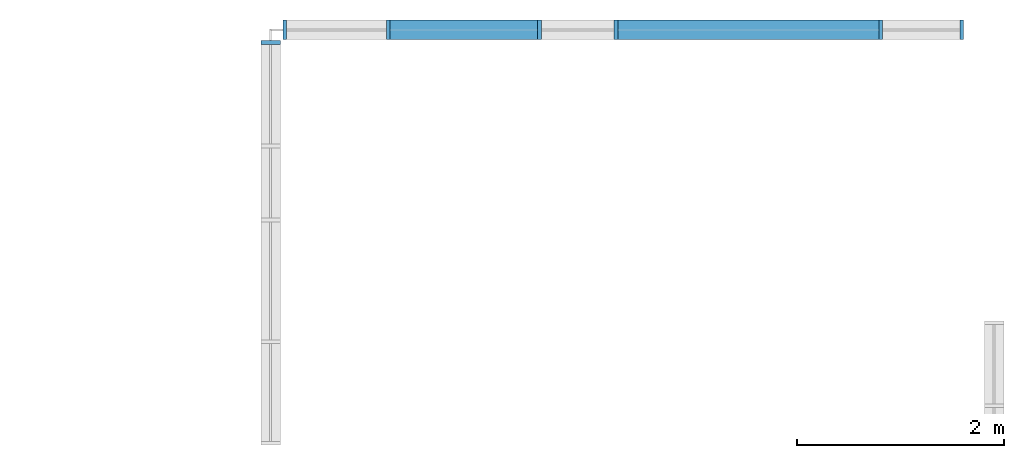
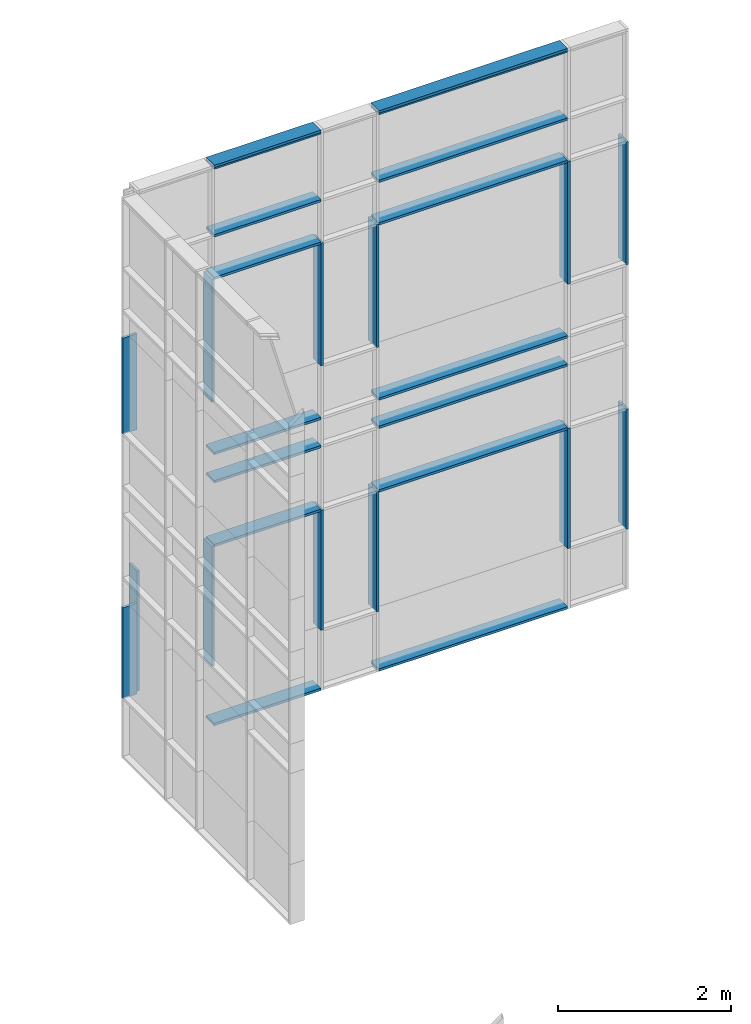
# One storey, part 7 of 73: 29 members, 2 elements without a shape of their own.
"""IFC2X3 building model written with IfcOpenShell, lengths in millimetres."""

from ifc_helpers import new_model, entity, si_unit, converted_unit, derived_unit, direction, frame, origin, origin_2d_with_axis, place, context, subcontext, project, spatial, rectangle, extrude, source, transform, mapped, material, type_object, type_shapes, element, aggregate, save


model = new_model("IFC2X3")

# Units and contexts
model_context = context("Model", 3, precision=0.01, world=origin(), true_north=direction((6.12303176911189e-17, 1.0)))
body_context = subcontext(model_context, "Body", "Model", "MODEL_VIEW")
ifc_project = project(units=[si_unit("LENGTHUNIT", "METRE", prefix="MILLI"), si_unit("AREAUNIT", "SQUARE_METRE"), si_unit("VOLUMEUNIT", "CUBIC_METRE"), converted_unit("PLANEANGLEUNIT", "DEGREE", entity("IfcRatioMeasure", 0.0174532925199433), si_unit("PLANEANGLEUNIT", "RADIAN"), dimensions=[0, 0, 0, 0, 0, 0, 0]), si_unit("MASSUNIT", "GRAM", prefix="KILO"), derived_unit("MASSDENSITYUNIT", [(si_unit("MASSUNIT", "GRAM", prefix="KILO"), 1), (si_unit("LENGTHUNIT", "METRE"), -3)]), si_unit("TIMEUNIT", "SECOND"), si_unit("FREQUENCYUNIT", "HERTZ"), si_unit("THERMODYNAMICTEMPERATUREUNIT", "DEGREE_CELSIUS"), derived_unit("THERMALTRANSMITTANCEUNIT", [(si_unit("MASSUNIT", "GRAM", prefix="KILO"), 1), (si_unit("THERMODYNAMICTEMPERATUREUNIT", "KELVIN"), -1), (si_unit("TIMEUNIT", "SECOND"), -3)]), derived_unit("VOLUMETRICFLOWRATEUNIT", [(si_unit("LENGTHUNIT", "METRE"), 3), (si_unit("TIMEUNIT", "SECOND"), -1)]), si_unit("ELECTRICCURRENTUNIT", "AMPERE"), si_unit("ELECTRICVOLTAGEUNIT", "VOLT"), si_unit("POWERUNIT", "WATT"), si_unit("FORCEUNIT", "NEWTON", prefix="KILO"), si_unit("ILLUMINANCEUNIT", "LUX"), si_unit("LUMINOUSFLUXUNIT", "LUMEN"), si_unit("LUMINOUSINTENSITYUNIT", "CANDELA"), derived_unit("USERDEFINED", [(si_unit("MASSUNIT", "GRAM", prefix="KILO"), -1), (si_unit("LENGTHUNIT", "METRE"), -2), (si_unit("TIMEUNIT", "SECOND"), 3), (si_unit("LUMINOUSFLUXUNIT", "LUMEN"), 1)]), derived_unit("LINEARVELOCITYUNIT", [(si_unit("LENGTHUNIT", "METRE"), 1), (si_unit("TIMEUNIT", "SECOND"), -1)]), si_unit("PRESSUREUNIT", "PASCAL"), derived_unit("USERDEFINED", [(si_unit("LENGTHUNIT", "METRE"), -2), (si_unit("MASSUNIT", "GRAM", prefix="KILO"), 1), (si_unit("TIMEUNIT", "SECOND"), -2)])], contexts=[model_context])

# Site, building, storey
site_placement = place(None, frame((-151.875543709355, 2715.0, 0.0)))
site = spatial("IfcSite", under=ifc_project, at=site_placement, Name="Surface", CompositionType="ELEMENT")
building_placement = place(site_placement, origin())
building = spatial("IfcBuilding", under=site, at=building_placement, CompositionType="ELEMENT")
storey_placement = place(building_placement, frame((0.0, 0.0, 6730.43000000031)))
storey = spatial("IfcBuildingStorey", under=building, at=storey_placement, Name="3 korrus", CompositionType="ELEMENT", Elevation=6730.43000000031)

# Curtain wall, members
curtain_wall_type = type_object("IfcCurtainWallType", Name="Curtain Wall:Klaasfassaad2", PredefinedType="NOTDEFINED")
curtain_wall_1_placement = place(storey_placement, frame((0.0, 0.0, -6730.43000000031)))
curtain_wall_1 = element("IfcCurtainWall", 1, at=curtain_wall_1_placement, inside=storey, type_object=curtain_wall_type, Name="Curtain Wall:Klaasfassaad2", ObjectType="Curtain Wall:Klaasfassaad2")
ifc_material = material(Name="Steel/Aluminium")
member_type_1 = type_object("IfcMemberType", Name="35 x 190mm", PredefinedType="MEMBER")
shared_shape_1 = source(origin(), body_context, "Body", "SweptSolid", [
    extrude(rectangle(XDim=190.0, YDim=35.0, at=origin_2d_with_axis()), frame((-17.5, 0.0, -1740.0), z_axis=(0.0, 0.0, 1.0), x_axis=(0.0, -1.0, 0.0)), (0.0, 0.0, 1.0), 1740.0),
])
type_shapes(member_type_1, [shared_shape_1])
member_1_placement = place(storey_placement, frame((38406.6162682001, 26624.0, 3474.47692901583)))
member_1 = element("IfcMember", 2, at=member_1_placement, type_object=member_type_1, material=ifc_material, Name="Rectangular Mullion:35 x 190mm", ObjectType="35 x 190mm", context=body_context, shape_type="MappedRepresentation", body=[
    mapped(shared_shape_1, transform((0.0, 0.0, 0.0), scale=1.0)),
])
member_type_2 = type_object("IfcMemberType", Name="35 x 190mm", PredefinedType="MEMBER")
shared_shape_2 = source(origin(), body_context, "Body", "SweptSolid", [
    extrude(rectangle(XDim=190.0, YDim=35.0, at=origin_2d_with_axis()), frame((-17.5, 0.0, -1700.31945955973), z_axis=(0.0, 0.0, 1.0), x_axis=(0.0, -1.0, 0.0)), (0.0, 0.0, 1.0), 1700.31945955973),
])
type_shapes(member_type_2, [shared_shape_2])
member_2_placement = place(storey_placement, frame((38406.6162682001, 26624.0, -305.523070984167)))
member_2 = element("IfcMember", 3, at=member_2_placement, type_object=member_type_2, material=ifc_material, Name="Rectangular Mullion:35 x 190mm", ObjectType="35 x 190mm", context=body_context, shape_type="MappedRepresentation", body=[
    mapped(shared_shape_2, transform((0.0, 0.0, 0.0), scale=1.0)),
])
member_type_3 = type_object("IfcMemberType", Name="35 x 190mm", PredefinedType="MEMBER")
shared_shape_3 = source(origin(), body_context, "Body", "SweptSolid", [
    extrude(rectangle(XDim=190.0, YDim=35.0, at=origin_2d_with_axis()), frame((-17.5, 0.0, -2525.0), z_axis=(0.0, 0.0, 1.0), x_axis=(0.0, -1.0, 0.0)), (0.0, 0.0, 1.0), 2525.00000000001),
])
type_shapes(member_type_3, [shared_shape_3])
member_3_placement = place(storey_placement, frame((37589.1162682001, 26624.0, -2856.00226032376), z_axis=(1.0, 0.0, 0.0), x_axis=(0.0, 0.0, -1.0)))
member_3 = element("IfcMember", 4, at=member_3_placement, type_object=member_type_3, material=ifc_material, Name="Rectangular Mullion:35 x 190mm", ObjectType="35 x 190mm", context=body_context, shape_type="MappedRepresentation", body=[
    mapped(shared_shape_3, transform((0.0, 0.0, 0.0), scale=1.0)),
])
member_type_4 = type_object("IfcMemberType", Name="35 x 190mm", PredefinedType="MEMBER")
shared_shape_4 = source(origin(), body_context, "Body", "SweptSolid", [
    extrude(rectangle(XDim=190.0, YDim=35.0, at=origin_2d_with_axis()), frame((0.0, 0.0, -2525.0), z_axis=(0.0, 0.0, 1.0), x_axis=(0.0, -1.0, 0.0)), (0.0, 0.0, 1.0), 2525.00000000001),
])
type_shapes(member_type_4, [shared_shape_4])
member_4_placement = place(storey_placement, frame((35064.1162682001, 26624.0, 4074.47692901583), z_axis=(-1.0, 0.0, 0.0), x_axis=(0.0, 0.0, 1.0)))
member_4 = element("IfcMember", 5, at=member_4_placement, type_object=member_type_4, material=ifc_material, Name="Rectangular Mullion:35 x 190mm", ObjectType="35 x 190mm", context=body_context, shape_type="MappedRepresentation", body=[
    mapped(shared_shape_4, transform((0.0, 0.0, 0.0), scale=1.0)),
])
member_type_5 = type_object("IfcMemberType", Name="35 x 190mm", PredefinedType="MEMBER")
shared_shape_5 = source(origin(), body_context, "Body", "SweptSolid", [
    extrude(rectangle(XDim=190.0, YDim=35.0, at=origin_2d_with_axis()), frame((0.0, 0.0, -2525.0), z_axis=(0.0, 0.0, 1.0), x_axis=(0.0, -1.0, 0.0)), (0.0, 0.0, 1.0), 2525.00000000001),
])
type_shapes(member_type_5, [shared_shape_5])
member_5_placement = place(storey_placement, frame((35064.1162682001, 26624.0, 3474.47692901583), z_axis=(-1.0, 0.0, 0.0), x_axis=(0.0, 0.0, 1.0)))
member_5 = element("IfcMember", 6, at=member_5_placement, type_object=member_type_5, material=ifc_material, Name="Rectangular Mullion:35 x 190mm", ObjectType="35 x 190mm", context=body_context, shape_type="MappedRepresentation", body=[
    mapped(shared_shape_5, transform((0.0, 0.0, 0.0), scale=1.0)),
])
member_type_6 = type_object("IfcMemberType", Name="35 x 190mm", PredefinedType="MEMBER")
shared_shape_6 = source(origin(), body_context, "Body", "SweptSolid", [
    extrude(rectangle(XDim=190.0, YDim=35.0, at=origin_2d_with_axis()), frame((0.0, 0.0, -2525.0), z_axis=(0.0, 0.0, 1.0), x_axis=(0.0, -1.0, 0.0)), (0.0, 0.0, 1.0), 2525.00000000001),
])
type_shapes(member_type_6, [shared_shape_6])
member_6_placement = place(storey_placement, frame((35064.1162682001, 26624.0, 994.476929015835), z_axis=(-1.0, 0.0, 0.0), x_axis=(0.0, 0.0, 1.0)))
member_6 = element("IfcMember", 7, at=member_6_placement, type_object=member_type_6, material=ifc_material, Name="Rectangular Mullion:35 x 190mm", ObjectType="35 x 190mm", context=body_context, shape_type="MappedRepresentation", body=[
    mapped(shared_shape_6, transform((0.0, 0.0, 0.0), scale=1.0)),
])
member_type_7 = type_object("IfcMemberType", Name="35 x 190mm", PredefinedType="MEMBER")
shared_shape_7 = source(origin(), body_context, "Body", "SweptSolid", [
    extrude(rectangle(XDim=190.0, YDim=35.0, at=origin_2d_with_axis()), frame((0.0, 0.0, -2525.0), z_axis=(0.0, 0.0, 1.0), x_axis=(0.0, -1.0, 0.0)), (0.0, 0.0, 1.0), 2525.00000000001),
])
type_shapes(member_type_7, [shared_shape_7])
member_7_placement = place(storey_placement, frame((35064.1162682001, 26624.0, 594.476929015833), z_axis=(-1.0, 0.0, 0.0), x_axis=(0.0, 0.0, 1.0)))
member_7 = element("IfcMember", 8, at=member_7_placement, type_object=member_type_7, material=ifc_material, Name="Rectangular Mullion:35 x 190mm", ObjectType="35 x 190mm", context=body_context, shape_type="MappedRepresentation", body=[
    mapped(shared_shape_7, transform((0.0, 0.0, 0.0), scale=1.0)),
])
member_type_8 = type_object("IfcMemberType", Name="35 x 190mm", PredefinedType="MEMBER")
shared_shape_8 = source(origin(), body_context, "Body", "SweptSolid", [
    extrude(rectangle(XDim=190.0, YDim=35.0, at=origin_2d_with_axis()), frame((0.0, 0.0, -2525.0), z_axis=(0.0, 0.0, 1.0), x_axis=(0.0, -1.0, 0.0)), (0.0, 0.0, 1.0), 2525.00000000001),
])
type_shapes(member_type_8, [shared_shape_8])
member_8_placement = place(storey_placement, frame((35064.1162682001, 26624.0, -305.523070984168), z_axis=(-1.0, 0.0, 0.0), x_axis=(0.0, 0.0, 1.0)))
member_8 = element("IfcMember", 9, at=member_8_placement, type_object=member_type_8, material=ifc_material, Name="Rectangular Mullion:35 x 190mm", ObjectType="35 x 190mm", context=body_context, shape_type="MappedRepresentation", body=[
    mapped(shared_shape_8, transform((0.0, 0.0, 0.0), scale=1.0)),
])
member_type_9 = type_object("IfcMemberType", Name="35 x 190mm", PredefinedType="MEMBER")
shared_shape_9 = source(origin(), body_context, "Body", "SweptSolid", [
    extrude(rectangle(XDim=190.0, YDim=35.0, at=origin_2d_with_axis()), frame((-17.5, 0.0, -1427.0), z_axis=(0.0, 0.0, 1.0), x_axis=(0.0, -1.0, 0.0)), (0.0, 0.0, 1.0), 1427.0),
])
type_shapes(member_type_9, [shared_shape_9])
member_9_placement = place(storey_placement, frame((34289.1162682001, 26624.0, -2856.00226032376), z_axis=(1.0, 0.0, 0.0), x_axis=(0.0, 0.0, -1.0)))
member_9 = element("IfcMember", 10, at=member_9_placement, type_object=member_type_9, material=ifc_material, Name="Rectangular Mullion:35 x 190mm", ObjectType="35 x 190mm", context=body_context, shape_type="MappedRepresentation", body=[
    mapped(shared_shape_9, transform((0.0, 0.0, 0.0), scale=1.0)),
])
member_type_10 = type_object("IfcMemberType", Name="35 x 190mm", PredefinedType="MEMBER")
shared_shape_10 = source(origin(), body_context, "Body", "SweptSolid", [
    extrude(rectangle(XDim=190.0, YDim=35.0, at=origin_2d_with_axis()), frame((0.0, 0.0, -1427.0), z_axis=(0.0, 0.0, 1.0), x_axis=(0.0, -1.0, 0.0)), (0.0, 0.0, 1.0), 1427.0),
])
type_shapes(member_type_10, [shared_shape_10])
member_10_placement = place(storey_placement, frame((32862.1162682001, 26624.0, 4074.47692901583), z_axis=(-1.0, 0.0, 0.0), x_axis=(0.0, 0.0, 1.0)))
member_10 = element("IfcMember", 11, at=member_10_placement, type_object=member_type_10, material=ifc_material, Name="Rectangular Mullion:35 x 190mm", ObjectType="35 x 190mm", context=body_context, shape_type="MappedRepresentation", body=[
    mapped(shared_shape_10, transform((0.0, 0.0, 0.0), scale=1.0)),
])
member_type_11 = type_object("IfcMemberType", Name="35 x 190mm", PredefinedType="MEMBER")
shared_shape_11 = source(origin(), body_context, "Body", "SweptSolid", [
    extrude(rectangle(XDim=190.0, YDim=35.0, at=origin_2d_with_axis()), frame((0.0, 0.0, -1427.0), z_axis=(0.0, 0.0, 1.0), x_axis=(0.0, -1.0, 0.0)), (0.0, 0.0, 1.0), 1427.0),
])
type_shapes(member_type_11, [shared_shape_11])
member_11_placement = place(storey_placement, frame((32862.1162682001, 26624.0, 3474.47692901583), z_axis=(-1.0, 0.0, 0.0), x_axis=(0.0, 0.0, 1.0)))
member_11 = element("IfcMember", 12, at=member_11_placement, type_object=member_type_11, material=ifc_material, Name="Rectangular Mullion:35 x 190mm", ObjectType="35 x 190mm", context=body_context, shape_type="MappedRepresentation", body=[
    mapped(shared_shape_11, transform((0.0, 0.0, 0.0), scale=1.0)),
])
member_type_12 = type_object("IfcMemberType", Name="35 x 190mm", PredefinedType="MEMBER")
shared_shape_12 = source(origin(), body_context, "Body", "SweptSolid", [
    extrude(rectangle(XDim=190.0, YDim=35.0, at=origin_2d_with_axis()), frame((0.0, 0.0, -1427.0), z_axis=(0.0, 0.0, 1.0), x_axis=(0.0, -1.0, 0.0)), (0.0, 0.0, 1.0), 1427.0),
])
type_shapes(member_type_12, [shared_shape_12])
member_12_placement = place(storey_placement, frame((32862.1162682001, 26624.0, 994.476929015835), z_axis=(-1.0, 0.0, 0.0), x_axis=(0.0, 0.0, 1.0)))
member_12 = element("IfcMember", 13, at=member_12_placement, type_object=member_type_12, material=ifc_material, Name="Rectangular Mullion:35 x 190mm", ObjectType="35 x 190mm", context=body_context, shape_type="MappedRepresentation", body=[
    mapped(shared_shape_12, transform((0.0, 0.0, 0.0), scale=1.0)),
])
member_type_13 = type_object("IfcMemberType", Name="35 x 190mm", PredefinedType="MEMBER")
shared_shape_13 = source(origin(), body_context, "Body", "SweptSolid", [
    extrude(rectangle(XDim=190.0, YDim=35.0, at=origin_2d_with_axis()), frame((0.0, 0.0, -1427.0), z_axis=(0.0, 0.0, 1.0), x_axis=(0.0, -1.0, 0.0)), (0.0, 0.0, 1.0), 1427.0),
])
type_shapes(member_type_13, [shared_shape_13])
member_13_placement = place(storey_placement, frame((32862.1162682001, 26624.0, 594.476929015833), z_axis=(-1.0, 0.0, 0.0), x_axis=(0.0, 0.0, 1.0)))
member_13 = element("IfcMember", 14, at=member_13_placement, type_object=member_type_13, material=ifc_material, Name="Rectangular Mullion:35 x 190mm", ObjectType="35 x 190mm", context=body_context, shape_type="MappedRepresentation", body=[
    mapped(shared_shape_13, transform((0.0, 0.0, 0.0), scale=1.0)),
])
member_type_14 = type_object("IfcMemberType", Name="35 x 190mm", PredefinedType="MEMBER")
shared_shape_14 = source(origin(), body_context, "Body", "SweptSolid", [
    extrude(rectangle(XDim=190.0, YDim=35.0, at=origin_2d_with_axis()), frame((0.0, 0.0, -1427.0), z_axis=(0.0, 0.0, 1.0), x_axis=(0.0, -1.0, 0.0)), (0.0, 0.0, 1.0), 1427.0),
])
type_shapes(member_type_14, [shared_shape_14])
member_14_placement = place(storey_placement, frame((32862.1162682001, 26624.0, -305.523070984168), z_axis=(-1.0, 0.0, 0.0), x_axis=(0.0, 0.0, 1.0)))
member_14 = element("IfcMember", 15, at=member_14_placement, type_object=member_type_14, material=ifc_material, Name="Rectangular Mullion:35 x 190mm", ObjectType="35 x 190mm", context=body_context, shape_type="MappedRepresentation", body=[
    mapped(shared_shape_14, transform((0.0, 0.0, 0.0), scale=1.0)),
])
member_type_15 = type_object("IfcMemberType", Name="35 x 190mm", PredefinedType="MEMBER")
shared_shape_15 = source(origin(), body_context, "Body", "SweptSolid", [
    extrude(rectangle(XDim=190.0, YDim=35.0, at=origin_2d_with_axis()), frame((0.0, 0.0, -2525.0), z_axis=(0.0, 0.0, 1.0), x_axis=(0.0, -1.0, 0.0)), (0.0, 0.0, 1.0), 2525.00000000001),
])
type_shapes(member_type_15, [shared_shape_15])
member_15_placement = place(storey_placement, frame((35064.1162682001, 26624.0, 5034.47692901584), z_axis=(-1.0, 0.0, 0.0), x_axis=(0.0, 0.0, 1.0)))
member_15 = element("IfcMember", 16, at=member_15_placement, type_object=member_type_15, material=ifc_material, Name="Rectangular Mullion:35 x 190mm", ObjectType="35 x 190mm", context=body_context, shape_type="MappedRepresentation", body=[
    mapped(shared_shape_15, transform((0.0, 0.0, 0.0), scale=1.0)),
])
member_type_16 = type_object("IfcMemberType", Name="35 x 190mm", PredefinedType="MEMBER")
shared_shape_16 = source(origin(), body_context, "Body", "SweptSolid", [
    extrude(rectangle(XDim=190.0, YDim=35.0, at=origin_2d_with_axis()), frame((0.0, 0.0, -1427.0), z_axis=(0.0, 0.0, 1.0), x_axis=(0.0, -1.0, 0.0)), (0.0, 0.0, 1.0), 1427.0),
])
type_shapes(member_type_16, [shared_shape_16])
member_16_placement = place(storey_placement, frame((32862.1162682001, 26624.0, 5034.47692901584), z_axis=(-1.0, 0.0, 0.0), x_axis=(0.0, 0.0, 1.0)))
member_16 = element("IfcMember", 17, at=member_16_placement, type_object=member_type_16, material=ifc_material, Name="Rectangular Mullion:35 x 190mm", ObjectType="35 x 190mm", context=body_context, shape_type="MappedRepresentation", body=[
    mapped(shared_shape_16, transform((0.0, 0.0, 0.0), scale=1.0)),
])
member_type_17 = type_object("IfcMemberType", Name="35 x 190mm", PredefinedType="MEMBER")
shared_shape_17 = source(origin(), body_context, "Body", "SweptSolid", [
    extrude(rectangle(XDim=190.0, YDim=35.0, at=origin_2d_with_axis()), frame((-17.5, 0.0, -2525.0), z_axis=(0.0, 0.0, 1.0), x_axis=(0.0, -1.0, 0.0)), (0.0, 0.0, 1.0), 2525.00000000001),
])
type_shapes(member_type_17, [shared_shape_17])
member_17_placement = place(storey_placement, frame((35064.1162682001, 26624.0, 5074.47692901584), z_axis=(-1.0, 0.0, 0.0), x_axis=(0.0, 0.0, 1.0)))
member_17 = element("IfcMember", 18, at=member_17_placement, type_object=member_type_17, material=ifc_material, Name="Rectangular Mullion:35 x 190mm", ObjectType="35 x 190mm", context=body_context, shape_type="MappedRepresentation", body=[
    mapped(shared_shape_17, transform((0.0, 0.0, 0.0), scale=1.0)),
])
member_type_18 = type_object("IfcMemberType", Name="35 x 190mm", PredefinedType="MEMBER")
shared_shape_18 = source(origin(), body_context, "Body", "SweptSolid", [
    extrude(rectangle(XDim=190.0, YDim=35.0, at=origin_2d_with_axis()), frame((-17.5, 0.0, -1427.0), z_axis=(0.0, 0.0, 1.0), x_axis=(0.0, -1.0, 0.0)), (0.0, 0.0, 1.0), 1427.0),
])
type_shapes(member_type_18, [shared_shape_18])
member_18_placement = place(storey_placement, frame((32862.1162682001, 26624.0, 5074.47692901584), z_axis=(-1.0, 0.0, 0.0), x_axis=(0.0, 0.0, 1.0)))
member_18 = element("IfcMember", 19, at=member_18_placement, type_object=member_type_18, material=ifc_material, Name="Rectangular Mullion:35 x 190mm", ObjectType="35 x 190mm", context=body_context, shape_type="MappedRepresentation", body=[
    mapped(shared_shape_18, transform((0.0, 0.0, 0.0), scale=1.0)),
])
member_type_19 = type_object("IfcMemberType", Name="35 x 190mm", PredefinedType="MEMBER")
shared_shape_19 = source(origin(), body_context, "Body", "SweptSolid", [
    extrude(rectangle(XDim=190.0, YDim=35.0, at=origin_2d_with_axis()), frame((0.0, 0.0, -1740.0), z_axis=(0.0, 0.0, 1.0), x_axis=(0.0, -1.0, 0.0)), (0.0, 0.0, 1.0), 1740.0),
])
type_shapes(member_type_19, [shared_shape_19])
member_19_placement = place(storey_placement, frame((37606.6162682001, 26624.0, 1734.47692901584), z_axis=(0.0, 0.0, -1.0), x_axis=(-1.0, 0.0, 0.0)))
member_19 = element("IfcMember", 20, at=member_19_placement, type_object=member_type_19, material=ifc_material, Name="Rectangular Mullion:35 x 190mm", ObjectType="35 x 190mm", context=body_context, shape_type="MappedRepresentation", body=[
    mapped(shared_shape_19, transform((0.0, 0.0, 0.0), scale=1.0)),
])
member_20_placement = place(storey_placement, frame((35046.6162682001, 26624.0, 1734.47692901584), z_axis=(0.0, 0.0, -1.0), x_axis=(-1.0, 0.0, 0.0)))
member_20 = element("IfcMember", 21, at=member_20_placement, type_object=member_type_19, material=ifc_material, Name="Rectangular Mullion:35 x 190mm", ObjectType="35 x 190mm", context=body_context, shape_type="MappedRepresentation", body=[
    mapped(shared_shape_19, transform((0.0, 0.0, 0.0), scale=1.0)),
])
member_21_placement = place(storey_placement, frame((34306.6162682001, 26624.0, 1734.47692901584), z_axis=(0.0, 0.0, -1.0), x_axis=(-1.0, 0.0, 0.0)))
member_21 = element("IfcMember", 22, at=member_21_placement, type_object=member_type_19, material=ifc_material, Name="Rectangular Mullion:35 x 190mm", ObjectType="35 x 190mm", context=body_context, shape_type="MappedRepresentation", body=[
    mapped(shared_shape_19, transform((0.0, 0.0, 0.0), scale=1.0)),
])
member_22_placement = place(storey_placement, frame((32844.6162682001, 26624.0, 1734.47692901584), z_axis=(0.0, 0.0, -1.0), x_axis=(-1.0, 0.0, 0.0)))
member_22 = element("IfcMember", 23, at=member_22_placement, type_object=member_type_19, material=ifc_material, Name="Rectangular Mullion:35 x 190mm", ObjectType="35 x 190mm", context=body_context, shape_type="MappedRepresentation", body=[
    mapped(shared_shape_19, transform((0.0, 0.0, 0.0), scale=1.0)),
])
member_type_20 = type_object("IfcMemberType", Name="35 x 190mm", PredefinedType="MEMBER")
shared_shape_20 = source(origin(), body_context, "Body", "SweptSolid", [
    extrude(rectangle(XDim=190.0, YDim=35.0, at=origin_2d_with_axis()), frame((0.0, 0.0, -1700.31945955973), z_axis=(0.0, 0.0, 1.0), x_axis=(0.0, -1.0, 0.0)), (0.0, 0.0, 1.0), 1700.31945955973),
])
type_shapes(member_type_20, [shared_shape_20])
member_23_placement = place(storey_placement, frame((37606.6162682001, 26624.0, -2005.8425305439), z_axis=(0.0, 0.0, -1.0), x_axis=(-1.0, 0.0, 0.0)))
member_23 = element("IfcMember", 24, at=member_23_placement, type_object=member_type_20, material=ifc_material, Name="Rectangular Mullion:35 x 190mm", ObjectType="35 x 190mm", context=body_context, shape_type="MappedRepresentation", body=[
    mapped(shared_shape_20, transform((0.0, 0.0, 0.0), scale=1.0)),
])
member_24_placement = place(storey_placement, frame((35046.6162682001, 26624.0, -2005.8425305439), z_axis=(0.0, 0.0, -1.0), x_axis=(-1.0, 0.0, 0.0)))
member_24 = element("IfcMember", 25, at=member_24_placement, type_object=member_type_20, material=ifc_material, Name="Rectangular Mullion:35 x 190mm", ObjectType="35 x 190mm", context=body_context, shape_type="MappedRepresentation", body=[
    mapped(shared_shape_20, transform((0.0, 0.0, 0.0), scale=1.0)),
])
member_25_placement = place(storey_placement, frame((34306.6162682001, 26624.0, -2005.8425305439), z_axis=(0.0, 0.0, -1.0), x_axis=(-1.0, 0.0, 0.0)))
member_25 = element("IfcMember", 26, at=member_25_placement, type_object=member_type_20, material=ifc_material, Name="Rectangular Mullion:35 x 190mm", ObjectType="35 x 190mm", context=body_context, shape_type="MappedRepresentation", body=[
    mapped(shared_shape_20, transform((0.0, 0.0, 0.0), scale=1.0)),
])
member_26_placement = place(storey_placement, frame((31844.6162682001, 26624.0, -2005.8425305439), z_axis=(0.0, 0.0, -1.0), x_axis=(-1.0, 0.0, 0.0)))
member_26 = element("IfcMember", 27, at=member_26_placement, type_object=member_type_20, material=ifc_material, Name="Rectangular Mullion:35 x 190mm", ObjectType="35 x 190mm", context=body_context, shape_type="MappedRepresentation", body=[
    mapped(shared_shape_20, transform((0.0, 0.0, 0.0), scale=1.0)),
])
member_27_placement = place(storey_placement, frame((32844.6162682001, 26624.0, -2005.8425305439), z_axis=(0.0, 0.0, -1.0), x_axis=(-1.0, 0.0, 0.0)))
member_27 = element("IfcMember", 28, at=member_27_placement, type_object=member_type_20, material=ifc_material, Name="Rectangular Mullion:35 x 190mm", ObjectType="35 x 190mm", context=body_context, shape_type="MappedRepresentation", body=[
    mapped(shared_shape_20, transform((0.0, 0.0, 0.0), scale=1.0)),
])
aggregate(curtain_wall_1, [member_1, member_2, member_3, member_4, member_5, member_6, member_7, member_8, member_9, member_10, member_11, member_12, member_13, member_14, member_15, member_16, member_17, member_18, member_19, member_23, member_20, member_24, member_21, member_25, member_26, member_22, member_27])

curtain_wall_2_placement = place(storey_placement, frame((0.0, 0.0, -6730.43000000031)))
curtain_wall_2 = element("IfcCurtainWall", 29, at=curtain_wall_2_placement, inside=storey, type_object=curtain_wall_type, Name="Curtain Wall:Klaasfassaad2", ObjectType="Curtain Wall:Klaasfassaad2")
member_type_21 = type_object("IfcMemberType", Name="35 x 190mm", PredefinedType="MEMBER")
shared_shape_21 = source(origin(), body_context, "Body", "SweptSolid", [
    extrude(rectangle(XDim=190.0, YDim=35.0, at=origin_2d_with_axis()), frame((0.0, 0.0, -1360.0), z_axis=(0.0, 0.0, 1.0), x_axis=(0.0, -1.0, 0.0)), (0.0, 0.0, 1.0), 1360.0),
])
type_shapes(member_type_21, [shared_shape_21])
member_28_placement = place(storey_placement, frame((31707.6162682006, 26501.1813631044, 1734.47692901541), z_axis=(0.0, 0.0, -1.0), x_axis=(0.0, 1.0, 0.0)))
member_28 = element("IfcMember", 30, at=member_28_placement, type_object=member_type_21, material=ifc_material, Name="Rectangular Mullion:35 x 190mm", ObjectType="35 x 190mm", context=body_context, shape_type="MappedRepresentation", body=[
    mapped(shared_shape_21, transform((0.0, 0.0, 0.0), scale=1.0)),
])
member_type_22 = type_object("IfcMemberType", Name="35 x 190mm", PredefinedType="MEMBER")
shared_shape_22 = source(origin(), body_context, "Body", "SweptSolid", [
    extrude(rectangle(XDim=190.0, YDim=35.0, at=origin_2d_with_axis()), frame((0.0, 0.0, -1284.84027022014), z_axis=(0.0, 0.0, 1.0), x_axis=(0.0, -1.0, 0.0)), (0.0, 0.0, 1.0), 1284.84027022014),
])
type_shapes(member_type_22, [shared_shape_22])
member_29_placement = place(storey_placement, frame((31707.6162682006, 26501.1813631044, -2005.84253054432), z_axis=(0.0, 0.0, -1.0), x_axis=(0.0, 1.0, 0.0)))
member_29 = element("IfcMember", 31, at=member_29_placement, type_object=member_type_22, material=ifc_material, Name="Rectangular Mullion:35 x 190mm", ObjectType="35 x 190mm", context=body_context, shape_type="MappedRepresentation", body=[
    mapped(shared_shape_22, transform((0.0, 0.0, 0.0), scale=1.0)),
])
aggregate(curtain_wall_2, [member_28, member_29])

save(model, "model.ifc")
